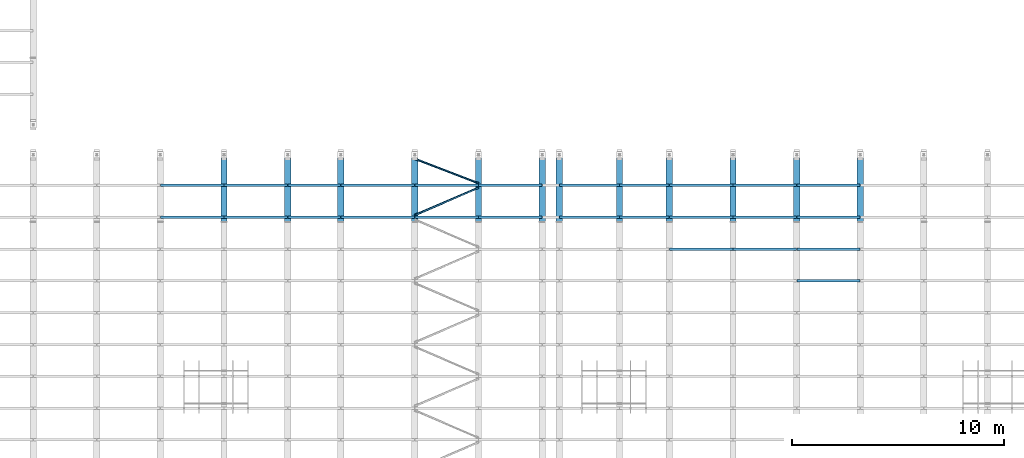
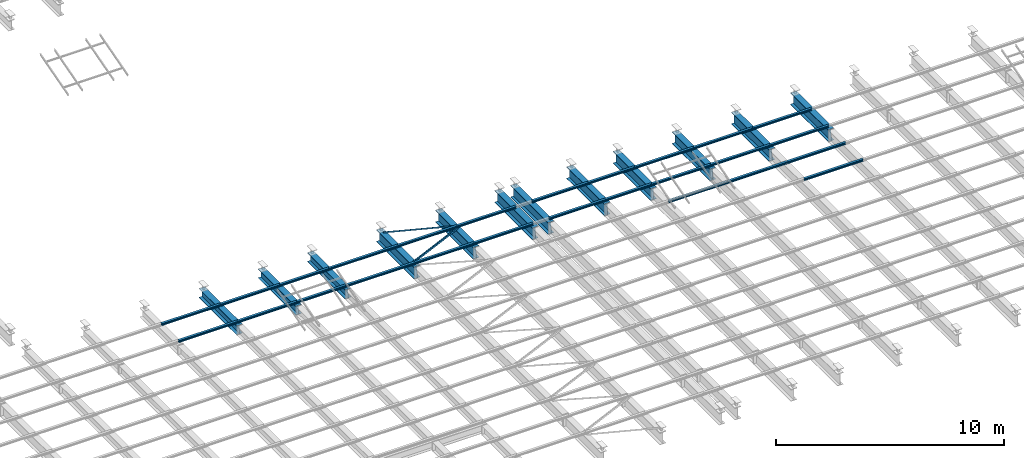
# One storey, part 67 of 139: 40 beams.
"""IFC2X3 building model written with IfcOpenShell, lengths in metres."""

from ifc_helpers import new_model, entity, si_unit, converted_unit, derived_unit, frame, origin, place, context, subcontext, project, spatial, polyline, outline, extrude, material, element, save


model = new_model("IFC2X3")

# Units and contexts
model_context = context("Model", 3, precision=1e-05, world=origin())
body_context = subcontext(model_context, "Body", "Model", "MODEL_VIEW")
ifc_project = project(units=[si_unit("LENGTHUNIT", "METRE"), si_unit("AREAUNIT", "SQUARE_METRE"), si_unit("VOLUMEUNIT", "CUBIC_METRE"), si_unit("MASSUNIT", "GRAM", prefix="KILO"), converted_unit("PLANEANGLEUNIT", "DEGREE", entity("IfcPlaneAngleMeasure", 0.0174532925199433), si_unit("PLANEANGLEUNIT", "RADIAN"), dimensions=[0, 0, 0, 0, 0, 0, 0]), derived_unit("THERMALTRANSMITTANCEUNIT", [(si_unit("POWERUNIT", "WATT"), 1), (si_unit("THERMODYNAMICTEMPERATUREUNIT", "KELVIN"), -1), (si_unit("LENGTHUNIT", "METRE"), -2)]), derived_unit("VOLUMETRICFLOWRATEUNIT", [(si_unit("LENGTHUNIT", "METRE"), 3), (converted_unit("TIMEUNIT", "hour", entity("IfcTimeMeasure", 3600.0), si_unit("TIMEUNIT", "SECOND"), dimensions=[0, 0, 1, 0, 0, 0, 0]), -1), (si_unit("LENGTHUNIT", "METRE"), -1)])], contexts=[model_context])

# Site, building, storey
site_placement = place(None, origin())
site = spatial("IfcSite", under=ifc_project, at=site_placement, Name="TWP_Speiseverteilzentrum SBW VZ II", CompositionType="ELEMENT")
building_placement = place(site_placement, origin())
building = spatial("IfcBuilding", under=site, at=building_placement, Name="Speiseverteilzentrum SBW VZ II", CompositionType="ELEMENT")
storey_placement = place(building_placement, frame((0.0, 0.0, 7.1307)))
storey = spatial("IfcBuildingStorey", under=building, at=storey_placement, Name="Wartung_FFB", CompositionType="ELEMENT", Elevation=7.1307)

# Beams
ifc_material_1 = material(Name="S235")
beam_1_placement = place(storey_placement, frame((76.0500000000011, 30.2500000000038, -0.435), z_axis=(0.0, 0.0, 1.0), x_axis=(-1.0, 0.0, 0.0)))
element("IfcBeam", 1, at=beam_1_placement, inside=storey, material=ifc_material_1, Name="Stahlträger", context=body_context, shape_type="SweptSolid", body=[
    extrude(outline(polyline([(-0.15, 0.245), (-0.15, 0.222), (-0.00599999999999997, 0.222), (-0.006, -0.222), (-0.15, -0.222), (-0.15, -0.245), (0.15, -0.245), (0.15, -0.222), (0.00600000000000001, -0.222), (0.00600000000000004, 0.222), (0.15, 0.222), (0.15, 0.245), (-0.15, 0.245)])), frame((0.0, 0.0, 0.0), z_axis=(0.0, 1.0, 0.0), x_axis=(-1.0, 0.0, 0.0)), (0.0, 0.0, 1.0), 3.29792570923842),
])
ifc_material_2 = material(Name="S235")
beam_2_placement = place(storey_placement, frame((79.0500000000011, 30.2500000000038, -0.435), z_axis=(0.0, 0.0, 1.0), x_axis=(-1.0, 0.0, 0.0)))
element("IfcBeam", 2, at=beam_2_placement, inside=storey, material=ifc_material_2, Name="Stahlträger", context=body_context, shape_type="SweptSolid", body=[
    extrude(outline(polyline([(-0.15, 0.245), (-0.15, 0.222), (-0.00599999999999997, 0.222), (-0.006, -0.222), (-0.15, -0.222), (-0.15, -0.245), (0.15, -0.245), (0.15, -0.222), (0.00600000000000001, -0.222), (0.00600000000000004, 0.222), (0.15, 0.222), (0.15, 0.245), (-0.15, 0.245)])), frame((0.0, 0.0, 0.0), z_axis=(0.0, 1.0, 0.0), x_axis=(-1.0, 0.0, 0.0)), (0.0, 0.0, 1.0), 3.29792570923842),
])
ifc_material_3 = material(Name="S235")
beam_3_placement = place(storey_placement, frame((81.5500000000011, 30.2500000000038, -0.435), z_axis=(0.0, 0.0, 1.0), x_axis=(-1.0, 0.0, 0.0)))
element("IfcBeam", 3, at=beam_3_placement, inside=storey, material=ifc_material_3, Name="Stahlträger", context=body_context, shape_type="SweptSolid", body=[
    extrude(outline(polyline([(-0.15, 0.245), (-0.15, 0.222), (-0.00599999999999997, 0.222), (-0.006, -0.222), (-0.15, -0.222), (-0.15, -0.245), (0.15, -0.245), (0.15, -0.222), (0.00600000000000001, -0.222), (0.00600000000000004, 0.222), (0.15, 0.222), (0.15, 0.245), (-0.15, 0.245)])), frame((0.0, 0.0, 0.0), z_axis=(0.0, 1.0, 0.0), x_axis=(-1.0, 0.0, 0.0)), (0.0, 0.0, 1.0), 3.29792570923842),
])
ifc_material_4 = material(Name="S235")
beam_4_placement = place(storey_placement, frame((88.0500000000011, 30.2500000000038, -0.51), z_axis=(0.0, 0.0, 1.0), x_axis=(-1.0, 0.0, 0.0)))
element("IfcBeam", 4, at=beam_4_placement, inside=storey, material=ifc_material_4, Name="Stahlträger", context=body_context, shape_type="SweptSolid", body=[
    extrude(outline(polyline([(-0.15, 0.32), (-0.15, 0.294), (-0.00675000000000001, 0.294), (-0.00675000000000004, -0.294), (-0.15, -0.294), (-0.15, -0.32), (0.15, -0.32), (0.15, -0.294), (0.00674999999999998, -0.294), (0.00675000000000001, 0.294), (0.15, 0.294), (0.15, 0.32), (-0.15, 0.32)])), frame((0.0, 0.0, 0.0), z_axis=(0.0, 1.0, 0.0), x_axis=(-1.0, 0.0, 0.0)), (0.0, 0.0, 1.0), 3.29792570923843),
])
ifc_material_5 = material(Name="S235")
beam_5_placement = place(storey_placement, frame((103.050000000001, 30.2500000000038, -0.51), z_axis=(0.0, 0.0, 1.0), x_axis=(-1.0, 0.0, 0.0)))
element("IfcBeam", 5, at=beam_5_placement, inside=storey, material=ifc_material_5, Name="Stahlträger", context=body_context, shape_type="SweptSolid", body=[
    extrude(outline(polyline([(-0.15, 0.32), (-0.15, 0.294), (-0.00675000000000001, 0.294), (-0.00675000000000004, -0.294), (-0.15, -0.294), (-0.15, -0.32), (0.15, -0.32), (0.15, -0.294), (0.00674999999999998, -0.294), (0.00675000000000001, 0.294), (0.15, 0.294), (0.15, 0.32), (-0.15, 0.32)])), frame((0.0, 0.0, 0.0), z_axis=(0.0, 1.0, 0.0), x_axis=(-1.0, 0.0, 0.0)), (0.0, 0.0, 1.0), 3.29792570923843),
])
ifc_material_6 = material(Name="S235")
beam_6_placement = place(storey_placement, frame((106.050000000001, 30.2500000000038, -0.51), z_axis=(0.0, 0.0, 1.0), x_axis=(-1.0, 0.0, 0.0)))
element("IfcBeam", 6, at=beam_6_placement, inside=storey, material=ifc_material_6, Name="Stahlträger", context=body_context, shape_type="SweptSolid", body=[
    extrude(outline(polyline([(-0.15, 0.32), (-0.15, 0.294), (-0.00675000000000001, 0.294), (-0.00675000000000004, -0.294), (-0.15, -0.294), (-0.15, -0.32), (0.15, -0.32), (0.15, -0.294), (0.00674999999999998, -0.294), (0.00675000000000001, 0.294), (0.15, 0.294), (0.15, 0.32), (-0.15, 0.32)])), frame((0.0, 0.0, 0.0), z_axis=(0.0, 1.0, 0.0), x_axis=(-1.0, 0.0, 0.0)), (0.0, 0.0, 1.0), 3.29792570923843),
])
ifc_material_7 = material(Name="S235")
beam_7_placement = place(storey_placement, frame((97.0500000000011, 30.2500000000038, -0.51), z_axis=(0.0, 0.0, 1.0), x_axis=(-1.0, 0.0, 0.0)))
element("IfcBeam", 7, at=beam_7_placement, inside=storey, material=ifc_material_7, Name="Stahlträger", context=body_context, shape_type="SweptSolid", body=[
    extrude(outline(polyline([(-0.15, 0.32), (-0.15, 0.294), (-0.00675000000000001, 0.294), (-0.00675000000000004, -0.294), (-0.15, -0.294), (-0.15, -0.32), (0.15, -0.32), (0.15, -0.294), (0.00674999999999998, -0.294), (0.00675000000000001, 0.294), (0.15, 0.294), (0.15, 0.32), (-0.15, 0.32)])), frame((0.0, 0.0, 0.0), z_axis=(0.0, 1.0, 0.0), x_axis=(-1.0, 0.0, 0.0)), (0.0, 0.0, 1.0), 3.29792570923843),
])
ifc_material_8 = material(Name="S235")
beam_8_placement = place(storey_placement, frame((100.050000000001, 30.2500000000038, -0.51), z_axis=(0.0, 0.0, 1.0), x_axis=(-1.0, 0.0, 0.0)))
element("IfcBeam", 8, at=beam_8_placement, inside=storey, material=ifc_material_8, Name="Stahlträger", context=body_context, shape_type="SweptSolid", body=[
    extrude(outline(polyline([(-0.15, 0.32), (-0.15, 0.294), (-0.00675000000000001, 0.294), (-0.00675000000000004, -0.294), (-0.15, -0.294), (-0.15, -0.32), (0.15, -0.32), (0.15, -0.294), (0.00674999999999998, -0.294), (0.00675000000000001, 0.294), (0.15, 0.294), (0.15, 0.32), (-0.15, 0.32)])), frame((0.0, 0.0, 0.0), z_axis=(0.0, 1.0, 0.0), x_axis=(-1.0, 0.0, 0.0)), (0.0, 0.0, 1.0), 3.29792570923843),
])
ifc_material_9 = material(Name="S235")
beam_9_placement = place(storey_placement, frame((94.7000000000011, 30.2500000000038, -0.51), z_axis=(0.0, 0.0, 1.0), x_axis=(-1.0, 0.0, 0.0)))
element("IfcBeam", 9, at=beam_9_placement, inside=storey, material=ifc_material_9, Name="Stahlträger", context=body_context, shape_type="SweptSolid", body=[
    extrude(outline(polyline([(-0.15, 0.32), (-0.15, 0.294), (-0.00675000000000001, 0.294), (-0.00675000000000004, -0.294), (-0.15, -0.294), (-0.15, -0.32), (0.15, -0.32), (0.15, -0.294), (0.00674999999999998, -0.294), (0.00675000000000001, 0.294), (0.15, 0.294), (0.15, 0.32), (-0.15, 0.32)])), frame((0.0, 0.0, 0.0), z_axis=(0.0, 1.0, 0.0), x_axis=(-1.0, 0.0, 0.0)), (0.0, 0.0, 1.0), 3.29792570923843),
])
ifc_material_10 = material(Name="S235")
beam_10_placement = place(storey_placement, frame((91.8500000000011, 30.2500000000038, -0.51), z_axis=(0.0, 0.0, 1.0), x_axis=(-1.0, 0.0, 0.0)))
element("IfcBeam", 10, at=beam_10_placement, inside=storey, material=ifc_material_10, Name="Stahlträger", context=body_context, shape_type="SweptSolid", body=[
    extrude(outline(polyline([(-0.15, 0.32), (-0.15, 0.294), (-0.00675000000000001, 0.294), (-0.00675000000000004, -0.294), (-0.15, -0.294), (-0.15, -0.32), (0.15, -0.32), (0.15, -0.294), (0.00674999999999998, -0.294), (0.00675000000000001, 0.294), (0.15, 0.294), (0.15, 0.32), (-0.15, 0.32)])), frame((0.0, 0.0, 0.0), z_axis=(0.0, 1.0, 0.0), x_axis=(-1.0, 0.0, 0.0)), (0.0, 0.0, 1.0), 3.29792570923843),
])
ifc_material_11 = material(Name="S235")
beam_11_placement = place(storey_placement, frame((91.0500000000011, 30.2500000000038, -0.51), z_axis=(0.0, 0.0, 1.0), x_axis=(-1.0, 0.0, 0.0)))
element("IfcBeam", 11, at=beam_11_placement, inside=storey, material=ifc_material_11, Name="Stahlträger", context=body_context, shape_type="SweptSolid", body=[
    extrude(outline(polyline([(-0.15, 0.32), (-0.15, 0.294), (-0.00675000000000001, 0.294), (-0.00675000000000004, -0.294), (-0.15, -0.294), (-0.15, -0.32), (0.15, -0.32), (0.15, -0.294), (0.00674999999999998, -0.294), (0.00675000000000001, 0.294), (0.15, 0.294), (0.15, 0.32), (-0.15, 0.32)])), frame((0.0, 0.0, 0.0), z_axis=(0.0, 1.0, 0.0), x_axis=(-1.0, 0.0, 0.0)), (0.0, 0.0, 1.0), 3.29792570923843),
])
ifc_material_12 = material(Name="S235")
beam_12_placement = place(storey_placement, frame((85.0500000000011, 30.2500000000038, -0.51), z_axis=(0.0, 0.0, 1.0), x_axis=(-1.0, 0.0, 0.0)))
element("IfcBeam", 12, at=beam_12_placement, inside=storey, material=ifc_material_12, Name="Stahlträger", context=body_context, shape_type="SweptSolid", body=[
    extrude(outline(polyline([(-0.15, 0.32), (-0.15, 0.294), (-0.00675000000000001, 0.294), (-0.00675000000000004, -0.294), (-0.15, -0.294), (-0.15, -0.32), (0.15, -0.32), (0.15, -0.294), (0.00674999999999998, -0.294), (0.00675000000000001, 0.294), (0.15, 0.294), (0.15, 0.32), (-0.15, 0.32)])), frame((0.0, 0.0, 0.0), z_axis=(0.0, 1.0, 0.0), x_axis=(-1.0, 0.0, 0.0)), (0.0, 0.0, 1.0), 3.29792570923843),
])
ifc_material_13 = material(Name="S235")
beam_13_placement = place(storey_placement, frame((73.0600000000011, 28.6450742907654, -0.133), z_axis=(0.0, 0.0, 1.0), x_axis=(0.0, -1.0, 0.0)))
element("IfcBeam", 13, at=beam_13_placement, inside=storey, material=ifc_material_13, Name="Nebenträger", context=body_context, shape_type="SweptSolid", body=[
    extrude(outline(polyline([(-0.06, 0.0570000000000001), (-0.06, 0.0490000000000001), (-0.00249999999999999, 0.0490000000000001), (-0.0025, -0.0489999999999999), (-0.06, -0.0489999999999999), (-0.06, -0.0569999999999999), (0.06, -0.0569999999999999), (0.06, -0.0489999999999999), (0.0025, -0.0489999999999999), (0.00250000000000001, 0.0490000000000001), (0.06, 0.0490000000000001), (0.06, 0.0570000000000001), (-0.06, 0.0570000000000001)])), frame((0.0, 0.0, 0.0), z_axis=(0.0, 1.0, 0.0), x_axis=(-1.0, 0.0, 0.0)), (0.0, 0.0, 1.0), 2.98),
])
ifc_material_14 = material(Name="S235")
beam_14_placement = place(storey_placement, frame((76.0600000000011, 28.6450742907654, -0.133), z_axis=(0.0, 0.0, 1.0), x_axis=(0.0, -1.0, 0.0)))
element("IfcBeam", 14, at=beam_14_placement, inside=storey, material=ifc_material_14, Name="Nebenträger", context=body_context, shape_type="SweptSolid", body=[
    extrude(outline(polyline([(-0.06, 0.0570000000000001), (-0.06, 0.0490000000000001), (-0.00249999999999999, 0.0490000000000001), (-0.0025, -0.0489999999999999), (-0.06, -0.0489999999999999), (-0.06, -0.0569999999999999), (0.06, -0.0569999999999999), (0.06, -0.0489999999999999), (0.0025, -0.0489999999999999), (0.00250000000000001, 0.0490000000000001), (0.06, 0.0490000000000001), (0.06, 0.0570000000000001), (-0.06, 0.0570000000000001)])), frame((0.0, 0.0, 0.0), z_axis=(0.0, 1.0, 0.0), x_axis=(-1.0, 0.0, 0.0)), (0.0, 0.0, 1.0), 2.98),
])
ifc_material_15 = material(Name="S235")
beam_15_placement = place(storey_placement, frame((85.0600000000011, 28.6450742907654, -0.133), z_axis=(0.0, 0.0, 1.0), x_axis=(0.0, -1.0, 0.0)))
element("IfcBeam", 15, at=beam_15_placement, inside=storey, material=ifc_material_15, Name="Nebenträger", context=body_context, shape_type="SweptSolid", body=[
    extrude(outline(polyline([(-0.06, 0.0570000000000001), (-0.06, 0.0490000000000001), (-0.00249999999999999, 0.0490000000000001), (-0.0025, -0.0489999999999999), (-0.06, -0.0489999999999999), (-0.06, -0.0569999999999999), (0.06, -0.0569999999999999), (0.06, -0.0489999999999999), (0.0025, -0.0489999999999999), (0.00250000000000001, 0.0490000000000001), (0.06, 0.0490000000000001), (0.06, 0.0570000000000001), (-0.06, 0.0570000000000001)])), frame((0.0, 0.0, 0.0), z_axis=(0.0, 1.0, 0.0), x_axis=(-1.0, 0.0, 0.0)), (0.0, 0.0, 1.0), 2.98),
])
ifc_material_16 = material(Name="S235")
beam_16_placement = place(storey_placement, frame((88.0600000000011, 28.6450742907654, -0.133), z_axis=(0.0, 0.0, 1.0), x_axis=(0.0, -1.0, 0.0)))
element("IfcBeam", 16, at=beam_16_placement, inside=storey, material=ifc_material_16, Name="Nebenträger", context=body_context, shape_type="SweptSolid", body=[
    extrude(outline(polyline([(-0.06, 0.0570000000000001), (-0.06, 0.0490000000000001), (-0.00249999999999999, 0.0490000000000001), (-0.0025, -0.0489999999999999), (-0.06, -0.0489999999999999), (-0.06, -0.0569999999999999), (0.06, -0.0569999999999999), (0.06, -0.0489999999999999), (0.0025, -0.0489999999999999), (0.00250000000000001, 0.0490000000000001), (0.06, 0.0490000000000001), (0.06, 0.0570000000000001), (-0.06, 0.0570000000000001)])), frame((0.0, 0.0, 0.0), z_axis=(0.0, 1.0, 0.0), x_axis=(-1.0, 0.0, 0.0)), (0.0, 0.0, 1.0), 2.98),
])
ifc_material_17 = material(Name="S235")
beam_17_placement = place(storey_placement, frame((97.0600000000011, 28.6450742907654, -0.133), z_axis=(0.0, 0.0, 1.0), x_axis=(0.0, -1.0, 0.0)))
element("IfcBeam", 17, at=beam_17_placement, inside=storey, material=ifc_material_17, Name="Nebenträger", context=body_context, shape_type="SweptSolid", body=[
    extrude(outline(polyline([(-0.06, 0.0570000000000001), (-0.06, 0.0490000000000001), (-0.00249999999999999, 0.0490000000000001), (-0.0025, -0.0489999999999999), (-0.06, -0.0489999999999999), (-0.06, -0.0569999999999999), (0.06, -0.0569999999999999), (0.06, -0.0489999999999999), (0.0025, -0.0489999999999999), (0.00250000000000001, 0.0490000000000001), (0.06, 0.0490000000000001), (0.06, 0.0570000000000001), (-0.06, 0.0570000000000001)])), frame((0.0, 0.0, 0.0), z_axis=(0.0, 1.0, 0.0), x_axis=(-1.0, 0.0, 0.0)), (0.0, 0.0, 1.0), 2.98),
])
ifc_material_18 = material(Name="S235")
beam_18_placement = place(storey_placement, frame((100.060000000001, 28.6450742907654, -0.133), z_axis=(0.0, 0.0, 1.0), x_axis=(0.0, -1.0, 0.0)))
element("IfcBeam", 18, at=beam_18_placement, inside=storey, material=ifc_material_18, Name="Nebenträger", context=body_context, shape_type="SweptSolid", body=[
    extrude(outline(polyline([(-0.06, 0.0570000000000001), (-0.06, 0.0490000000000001), (-0.00249999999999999, 0.0490000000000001), (-0.0025, -0.0489999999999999), (-0.06, -0.0489999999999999), (-0.06, -0.0569999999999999), (0.06, -0.0569999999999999), (0.06, -0.0489999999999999), (0.0025, -0.0489999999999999), (0.00250000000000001, 0.0490000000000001), (0.06, 0.0490000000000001), (0.06, 0.0570000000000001), (-0.06, 0.0570000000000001)])), frame((0.0, 0.0, 0.0), z_axis=(0.0, 1.0, 0.0), x_axis=(-1.0, 0.0, 0.0)), (0.0, 0.0, 1.0), 2.98),
])
ifc_material_19 = material(Name="S235")
beam_19_placement = place(storey_placement, frame((103.060000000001, 28.6450742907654, -0.133), z_axis=(0.0, 0.0, 1.0), x_axis=(0.0, -1.0, 0.0)))
element("IfcBeam", 19, at=beam_19_placement, inside=storey, material=ifc_material_19, Name="Nebenträger", context=body_context, shape_type="SweptSolid", body=[
    extrude(outline(polyline([(-0.06, 0.0570000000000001), (-0.06, 0.0490000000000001), (-0.00249999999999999, 0.0490000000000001), (-0.0025, -0.0489999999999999), (-0.06, -0.0489999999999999), (-0.06, -0.0569999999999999), (0.06, -0.0569999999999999), (0.06, -0.0489999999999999), (0.0025, -0.0489999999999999), (0.00250000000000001, 0.0490000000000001), (0.06, 0.0490000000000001), (0.06, 0.0570000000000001), (-0.06, 0.0570000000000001)])), frame((0.0, 0.0, 0.0), z_axis=(0.0, 1.0, 0.0), x_axis=(-1.0, 0.0, 0.0)), (0.0, 0.0, 1.0), 2.98),
])
ifc_material_20 = material(Name="S235")
beam_20_placement = place(storey_placement, frame((73.0600000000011, 27.1450742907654, -0.133), z_axis=(0.0, 0.0, 1.0), x_axis=(0.0, -1.0, 0.0)))
element("IfcBeam", 20, at=beam_20_placement, inside=storey, material=ifc_material_20, Name="Nebenträger", context=body_context, shape_type="SweptSolid", body=[
    extrude(outline(polyline([(-0.06, 0.0570000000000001), (-0.06, 0.0490000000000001), (-0.00249999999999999, 0.0490000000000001), (-0.0025, -0.0489999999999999), (-0.06, -0.0489999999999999), (-0.06, -0.0569999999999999), (0.06, -0.0569999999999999), (0.06, -0.0489999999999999), (0.0025, -0.0489999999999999), (0.00250000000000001, 0.0490000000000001), (0.06, 0.0490000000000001), (0.06, 0.0570000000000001), (-0.06, 0.0570000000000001)])), frame((0.0, 0.0, 0.0), z_axis=(0.0, 1.0, 0.0), x_axis=(-1.0, 0.0, 0.0)), (0.0, 0.0, 1.0), 2.98),
])
ifc_material_21 = material(Name="S235")
beam_21_placement = place(storey_placement, frame((76.0600000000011, 27.1450742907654, -0.133), z_axis=(0.0, 0.0, 1.0), x_axis=(0.0, -1.0, 0.0)))
element("IfcBeam", 21, at=beam_21_placement, inside=storey, material=ifc_material_21, Name="Nebenträger", context=body_context, shape_type="SweptSolid", body=[
    extrude(outline(polyline([(-0.06, 0.0570000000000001), (-0.06, 0.0490000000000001), (-0.00249999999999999, 0.0490000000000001), (-0.0025, -0.0489999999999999), (-0.06, -0.0489999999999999), (-0.06, -0.0569999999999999), (0.06, -0.0569999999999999), (0.06, -0.0489999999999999), (0.0025, -0.0489999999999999), (0.00250000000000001, 0.0490000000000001), (0.06, 0.0490000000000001), (0.06, 0.0570000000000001), (-0.06, 0.0570000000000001)])), frame((0.0, 0.0, 0.0), z_axis=(0.0, 1.0, 0.0), x_axis=(-1.0, 0.0, 0.0)), (0.0, 0.0, 1.0), 2.98),
])
ifc_material_22 = material(Name="S235")
beam_22_placement = place(storey_placement, frame((85.0600000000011, 27.1450742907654, -0.133), z_axis=(0.0, 0.0, 1.0), x_axis=(0.0, -1.0, 0.0)))
element("IfcBeam", 22, at=beam_22_placement, inside=storey, material=ifc_material_22, Name="Nebenträger", context=body_context, shape_type="SweptSolid", body=[
    extrude(outline(polyline([(-0.06, 0.0570000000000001), (-0.06, 0.0490000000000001), (-0.00249999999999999, 0.0490000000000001), (-0.0025, -0.0489999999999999), (-0.06, -0.0489999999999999), (-0.06, -0.0569999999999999), (0.06, -0.0569999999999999), (0.06, -0.0489999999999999), (0.0025, -0.0489999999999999), (0.00250000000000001, 0.0490000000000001), (0.06, 0.0490000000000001), (0.06, 0.0570000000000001), (-0.06, 0.0570000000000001)])), frame((0.0, 0.0, 0.0), z_axis=(0.0, 1.0, 0.0), x_axis=(-1.0, 0.0, 0.0)), (0.0, 0.0, 1.0), 2.98),
])
ifc_material_23 = material(Name="S235")
beam_23_placement = place(storey_placement, frame((88.0600000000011, 27.1450742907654, -0.133), z_axis=(0.0, 0.0, 1.0), x_axis=(0.0, -1.0, 0.0)))
element("IfcBeam", 23, at=beam_23_placement, inside=storey, material=ifc_material_23, Name="Nebenträger", context=body_context, shape_type="SweptSolid", body=[
    extrude(outline(polyline([(-0.06, 0.0570000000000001), (-0.06, 0.0490000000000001), (-0.00249999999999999, 0.0490000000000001), (-0.0025, -0.0489999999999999), (-0.06, -0.0489999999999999), (-0.06, -0.0569999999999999), (0.06, -0.0569999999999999), (0.06, -0.0489999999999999), (0.0025, -0.0489999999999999), (0.00250000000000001, 0.0490000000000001), (0.06, 0.0490000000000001), (0.06, 0.0570000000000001), (-0.06, 0.0570000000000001)])), frame((0.0, 0.0, 0.0), z_axis=(0.0, 1.0, 0.0), x_axis=(-1.0, 0.0, 0.0)), (0.0, 0.0, 1.0), 2.98),
])
ifc_material_24 = material(Name="S235")
beam_24_placement = place(storey_placement, frame((97.0600000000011, 27.1450742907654, -0.133), z_axis=(0.0, 0.0, 1.0), x_axis=(0.0, -1.0, 0.0)))
element("IfcBeam", 24, at=beam_24_placement, inside=storey, material=ifc_material_24, Name="Nebenträger", context=body_context, shape_type="SweptSolid", body=[
    extrude(outline(polyline([(-0.06, 0.0570000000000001), (-0.06, 0.0490000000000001), (-0.00249999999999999, 0.0490000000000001), (-0.0025, -0.0489999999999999), (-0.06, -0.0489999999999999), (-0.06, -0.0569999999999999), (0.06, -0.0569999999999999), (0.06, -0.0489999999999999), (0.0025, -0.0489999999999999), (0.00250000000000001, 0.0490000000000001), (0.06, 0.0490000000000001), (0.06, 0.0570000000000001), (-0.06, 0.0570000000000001)])), frame((0.0, 0.0, 0.0), z_axis=(0.0, 1.0, 0.0), x_axis=(-1.0, 0.0, 0.0)), (0.0, 0.0, 1.0), 2.98),
])
ifc_material_25 = material(Name="S235")
beam_25_placement = place(storey_placement, frame((100.060000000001, 27.1450742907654, -0.133), z_axis=(0.0, 0.0, 1.0), x_axis=(0.0, -1.0, 0.0)))
element("IfcBeam", 25, at=beam_25_placement, inside=storey, material=ifc_material_25, Name="Nebenträger", context=body_context, shape_type="SweptSolid", body=[
    extrude(outline(polyline([(-0.06, 0.0570000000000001), (-0.06, 0.0490000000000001), (-0.00249999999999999, 0.0490000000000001), (-0.0025, -0.0489999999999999), (-0.06, -0.0489999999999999), (-0.06, -0.0569999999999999), (0.06, -0.0569999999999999), (0.06, -0.0489999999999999), (0.0025, -0.0489999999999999), (0.00250000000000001, 0.0490000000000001), (0.06, 0.0490000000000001), (0.06, 0.0570000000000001), (-0.06, 0.0570000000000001)])), frame((0.0, 0.0, 0.0), z_axis=(0.0, 1.0, 0.0), x_axis=(-1.0, 0.0, 0.0)), (0.0, 0.0, 1.0), 2.98),
])
ifc_material_26 = material(Name="S235")
beam_26_placement = place(storey_placement, frame((103.060000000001, 27.1450742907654, -0.133), z_axis=(0.0, 0.0, 1.0), x_axis=(0.0, -1.0, 0.0)))
element("IfcBeam", 26, at=beam_26_placement, inside=storey, material=ifc_material_26, Name="Nebenträger", context=body_context, shape_type="SweptSolid", body=[
    extrude(outline(polyline([(-0.06, 0.0570000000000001), (-0.06, 0.0490000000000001), (-0.00249999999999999, 0.0490000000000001), (-0.0025, -0.0489999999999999), (-0.06, -0.0489999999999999), (-0.06, -0.0569999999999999), (0.06, -0.0569999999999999), (0.06, -0.0489999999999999), (0.0025, -0.0489999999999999), (0.00250000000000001, 0.0490000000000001), (0.06, 0.0490000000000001), (0.06, 0.0570000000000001), (-0.06, 0.0570000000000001)])), frame((0.0, 0.0, 0.0), z_axis=(0.0, 1.0, 0.0), x_axis=(-1.0, 0.0, 0.0)), (0.0, 0.0, 1.0), 2.98),
])
ifc_material_27 = material(Name="S235")
beam_27_placement = place(storey_placement, frame((97.0600000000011, 25.6450742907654, -0.133), z_axis=(0.0, 0.0, 1.0), x_axis=(0.0, -1.0, 0.0)))
element("IfcBeam", 27, at=beam_27_placement, inside=storey, material=ifc_material_27, Name="Nebenträger", context=body_context, shape_type="SweptSolid", body=[
    extrude(outline(polyline([(-0.06, 0.0570000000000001), (-0.06, 0.0490000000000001), (-0.00249999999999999, 0.0490000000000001), (-0.0025, -0.0489999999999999), (-0.06, -0.0489999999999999), (-0.06, -0.0569999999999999), (0.06, -0.0569999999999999), (0.06, -0.0489999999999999), (0.0025, -0.0489999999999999), (0.00250000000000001, 0.0490000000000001), (0.06, 0.0490000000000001), (0.06, 0.0570000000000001), (-0.06, 0.0570000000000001)])), frame((0.0, 0.0, 0.0), z_axis=(0.0, 1.0, 0.0), x_axis=(-1.0, 0.0, 0.0)), (0.0, 0.0, 1.0), 2.98),
])
ifc_material_28 = material(Name="S235")
beam_28_placement = place(storey_placement, frame((100.060000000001, 25.6450742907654, -0.133), z_axis=(0.0, 0.0, 1.0), x_axis=(0.0, -1.0, 0.0)))
element("IfcBeam", 28, at=beam_28_placement, inside=storey, material=ifc_material_28, Name="Nebenträger", context=body_context, shape_type="SweptSolid", body=[
    extrude(outline(polyline([(-0.06, 0.0570000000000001), (-0.06, 0.0490000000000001), (-0.00249999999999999, 0.0490000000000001), (-0.0025, -0.0489999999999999), (-0.06, -0.0489999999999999), (-0.06, -0.0569999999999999), (0.06, -0.0569999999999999), (0.06, -0.0489999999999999), (0.0025, -0.0489999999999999), (0.00250000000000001, 0.0490000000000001), (0.06, 0.0490000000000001), (0.06, 0.0570000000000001), (-0.06, 0.0570000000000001)])), frame((0.0, 0.0, 0.0), z_axis=(0.0, 1.0, 0.0), x_axis=(-1.0, 0.0, 0.0)), (0.0, 0.0, 1.0), 2.98),
])
ifc_material_29 = material(Name="S235")
beam_29_placement = place(storey_placement, frame((103.060000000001, 25.6450742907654, -0.133), z_axis=(0.0, 0.0, 1.0), x_axis=(0.0, -1.0, 0.0)))
element("IfcBeam", 29, at=beam_29_placement, inside=storey, material=ifc_material_29, Name="Nebenträger", context=body_context, shape_type="SweptSolid", body=[
    extrude(outline(polyline([(-0.06, 0.0570000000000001), (-0.06, 0.0490000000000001), (-0.00249999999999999, 0.0490000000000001), (-0.0025, -0.0489999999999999), (-0.06, -0.0489999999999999), (-0.06, -0.0569999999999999), (0.06, -0.0569999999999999), (0.06, -0.0489999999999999), (0.0025, -0.0489999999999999), (0.00250000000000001, 0.0490000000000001), (0.06, 0.0490000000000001), (0.06, 0.0570000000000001), (-0.06, 0.0570000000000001)])), frame((0.0, 0.0, 0.0), z_axis=(0.0, 1.0, 0.0), x_axis=(-1.0, 0.0, 0.0)), (0.0, 0.0, 1.0), 2.98),
])
ifc_material_30 = material(Name="S235")
beam_30_placement = place(storey_placement, frame((103.060000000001, 24.1450742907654, -0.133), z_axis=(0.0, 0.0, 1.0), x_axis=(0.0, -1.0, 0.0)))
element("IfcBeam", 30, at=beam_30_placement, inside=storey, material=ifc_material_30, Name="Nebenträger", context=body_context, shape_type="SweptSolid", body=[
    extrude(outline(polyline([(-0.06, 0.0570000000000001), (-0.06, 0.0490000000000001), (-0.00249999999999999, 0.0490000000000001), (-0.0025, -0.0489999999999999), (-0.06, -0.0489999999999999), (-0.06, -0.0569999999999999), (0.06, -0.0569999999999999), (0.06, -0.0489999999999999), (0.0025, -0.0489999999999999), (0.00250000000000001, 0.0490000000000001), (0.06, 0.0490000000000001), (0.06, 0.0570000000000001), (-0.06, 0.0570000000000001)])), frame((0.0, 0.0, 0.0), z_axis=(0.0, 1.0, 0.0), x_axis=(-1.0, 0.0, 0.0)), (0.0, 0.0, 1.0), 2.98),
])
ifc_material_31 = material(Name="S235")
beam_31_placement = place(storey_placement, frame((79.0600000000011, 28.6450742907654, -0.133), z_axis=(0.0, 0.0, 1.0), x_axis=(0.0, -1.0, 0.0)))
element("IfcBeam", 31, at=beam_31_placement, inside=storey, material=ifc_material_31, Name="Nebenträger", context=body_context, shape_type="SweptSolid", body=[
    extrude(outline(polyline([(-0.06, 0.0570000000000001), (-0.06, 0.0490000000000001), (-0.00249999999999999, 0.0490000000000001), (-0.0025, -0.0489999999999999), (-0.06, -0.0489999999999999), (-0.06, -0.0569999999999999), (0.06, -0.0569999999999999), (0.06, -0.0489999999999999), (0.0025, -0.0489999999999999), (0.00250000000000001, 0.0490000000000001), (0.06, 0.0490000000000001), (0.06, 0.0570000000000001), (-0.06, 0.0570000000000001)])), frame((0.0, 0.0, 0.0), z_axis=(0.0, 1.0, 0.0), x_axis=(-1.0, 0.0, 0.0)), (0.0, 0.0, 1.0), 2.48),
])
ifc_material_32 = material(Name="S235")
beam_32_placement = place(storey_placement, frame((81.5600000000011, 28.6450742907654, -0.133), z_axis=(0.0, 0.0, 1.0), x_axis=(0.0, -1.0, 0.0)))
element("IfcBeam", 32, at=beam_32_placement, inside=storey, material=ifc_material_32, Name="Nebenträger", context=body_context, shape_type="SweptSolid", body=[
    extrude(outline(polyline([(-0.06, 0.0570000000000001), (-0.06, 0.0490000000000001), (-0.00249999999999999, 0.0490000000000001), (-0.0025, -0.0489999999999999), (-0.06, -0.0489999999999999), (-0.06, -0.0569999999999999), (0.06, -0.0569999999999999), (0.06, -0.0489999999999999), (0.0025, -0.0489999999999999), (0.00250000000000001, 0.0490000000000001), (0.06, 0.0490000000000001), (0.06, 0.0570000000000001), (-0.06, 0.0570000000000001)])), frame((0.0, 0.0, 0.0), z_axis=(0.0, 1.0, 0.0), x_axis=(-1.0, 0.0, 0.0)), (0.0, 0.0, 1.0), 3.48),
])
ifc_material_33 = material(Name="S235")
beam_33_placement = place(storey_placement, frame((79.0600000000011, 27.1450742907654, -0.133), z_axis=(0.0, 0.0, 1.0), x_axis=(0.0, -1.0, 0.0)))
element("IfcBeam", 33, at=beam_33_placement, inside=storey, material=ifc_material_33, Name="Nebenträger", context=body_context, shape_type="SweptSolid", body=[
    extrude(outline(polyline([(-0.06, 0.0570000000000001), (-0.06, 0.0490000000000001), (-0.00249999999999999, 0.0490000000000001), (-0.0025, -0.0489999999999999), (-0.06, -0.0489999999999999), (-0.06, -0.0569999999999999), (0.06, -0.0569999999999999), (0.06, -0.0489999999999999), (0.0025, -0.0489999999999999), (0.00250000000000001, 0.0490000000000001), (0.06, 0.0490000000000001), (0.06, 0.0570000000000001), (-0.06, 0.0570000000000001)])), frame((0.0, 0.0, 0.0), z_axis=(0.0, 1.0, 0.0), x_axis=(-1.0, 0.0, 0.0)), (0.0, 0.0, 1.0), 2.48),
])
ifc_material_34 = material(Name="S235")
beam_34_placement = place(storey_placement, frame((81.5600000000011, 27.1450742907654, -0.133), z_axis=(0.0, 0.0, 1.0), x_axis=(0.0, -1.0, 0.0)))
element("IfcBeam", 34, at=beam_34_placement, inside=storey, material=ifc_material_34, Name="Nebenträger", context=body_context, shape_type="SweptSolid", body=[
    extrude(outline(polyline([(-0.06, 0.0570000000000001), (-0.06, 0.0490000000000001), (-0.00249999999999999, 0.0490000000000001), (-0.0025, -0.0489999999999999), (-0.06, -0.0489999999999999), (-0.06, -0.0569999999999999), (0.06, -0.0569999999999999), (0.06, -0.0489999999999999), (0.0025, -0.0489999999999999), (0.00250000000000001, 0.0490000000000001), (0.06, 0.0490000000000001), (0.06, 0.0570000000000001), (-0.06, 0.0570000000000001)])), frame((0.0, 0.0, 0.0), z_axis=(0.0, 1.0, 0.0), x_axis=(-1.0, 0.0, 0.0)), (0.0, 0.0, 1.0), 3.48),
])
ifc_material_35 = material(Name="S235")
beam_35_placement = place(storey_placement, frame((94.7100000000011, 28.6450742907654, -0.133), z_axis=(0.0, 0.0, 1.0), x_axis=(0.0, -1.0, 0.0)))
element("IfcBeam", 35, at=beam_35_placement, inside=storey, material=ifc_material_35, Name="Nebenträger", context=body_context, shape_type="SweptSolid", body=[
    extrude(outline(polyline([(-0.06, 0.0570000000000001), (-0.06, 0.0490000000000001), (-0.00249999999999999, 0.0490000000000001), (-0.0025, -0.0489999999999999), (-0.06, -0.0489999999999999), (-0.06, -0.0569999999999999), (0.06, -0.0569999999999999), (0.06, -0.0489999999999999), (0.0025, -0.0489999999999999), (0.00250000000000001, 0.0490000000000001), (0.06, 0.0490000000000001), (0.06, 0.0570000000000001), (-0.06, 0.0570000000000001)])), frame((0.0, 0.0, 0.0), z_axis=(0.0, 1.0, 0.0), x_axis=(-1.0, 0.0, 0.0)), (0.0, 0.0, 1.0), 2.33),
])
ifc_material_36 = material(Name="S235")
beam_36_placement = place(storey_placement, frame((94.7100000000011, 27.1450742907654, -0.133), z_axis=(0.0, 0.0, 1.0), x_axis=(0.0, -1.0, 0.0)))
element("IfcBeam", 36, at=beam_36_placement, inside=storey, material=ifc_material_36, Name="Nebenträger", context=body_context, shape_type="SweptSolid", body=[
    extrude(outline(polyline([(-0.06, 0.0570000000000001), (-0.06, 0.0490000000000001), (-0.00249999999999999, 0.0490000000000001), (-0.0025, -0.0489999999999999), (-0.06, -0.0489999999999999), (-0.06, -0.0569999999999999), (0.06, -0.0569999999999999), (0.06, -0.0489999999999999), (0.0025, -0.0489999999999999), (0.00250000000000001, 0.0490000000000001), (0.06, 0.0490000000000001), (0.06, 0.0570000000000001), (-0.06, 0.0570000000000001)])), frame((0.0, 0.0, 0.0), z_axis=(0.0, 1.0, 0.0), x_axis=(-1.0, 0.0, 0.0)), (0.0, 0.0, 1.0), 2.33),
])
ifc_material_37 = material(Name="S235")
beam_37_placement = place(storey_placement, frame((91.8600000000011, 28.6450742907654, -0.133), z_axis=(0.0, 0.0, 1.0), x_axis=(0.0, -1.0, 0.0)))
element("IfcBeam", 37, at=beam_37_placement, inside=storey, material=ifc_material_37, Name="Nebenträger", context=body_context, shape_type="SweptSolid", body=[
    extrude(outline(polyline([(-0.06, 0.0570000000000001), (-0.06, 0.0490000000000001), (-0.00249999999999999, 0.0490000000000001), (-0.0025, -0.0489999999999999), (-0.06, -0.0489999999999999), (-0.06, -0.0569999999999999), (0.06, -0.0569999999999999), (0.06, -0.0489999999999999), (0.0025, -0.0489999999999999), (0.00250000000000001, 0.0490000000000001), (0.06, 0.0490000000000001), (0.06, 0.0570000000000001), (-0.06, 0.0570000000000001)])), frame((0.0, 0.0, 0.0), z_axis=(0.0, 1.0, 0.0), x_axis=(-1.0, 0.0, 0.0)), (0.0, 0.0, 1.0), 2.83325),
])
ifc_material_38 = material(Name="S235")
beam_38_placement = place(storey_placement, frame((91.8600000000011, 27.1450742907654, -0.133), z_axis=(0.0, 0.0, 1.0), x_axis=(0.0, -1.0, 0.0)))
element("IfcBeam", 38, at=beam_38_placement, inside=storey, material=ifc_material_38, Name="Nebenträger", context=body_context, shape_type="SweptSolid", body=[
    extrude(outline(polyline([(-0.06, 0.0570000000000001), (-0.06, 0.0490000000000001), (-0.00249999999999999, 0.0490000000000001), (-0.0025, -0.0489999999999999), (-0.06, -0.0489999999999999), (-0.06, -0.0569999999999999), (0.06, -0.0569999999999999), (0.06, -0.0489999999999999), (0.0025, -0.0489999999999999), (0.00250000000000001, 0.0490000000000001), (0.06, 0.0490000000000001), (0.06, 0.0570000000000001), (-0.06, 0.0570000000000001)])), frame((0.0, 0.0, 0.0), z_axis=(0.0, 1.0, 0.0), x_axis=(-1.0, 0.0, 0.0)), (0.0, 0.0, 1.0), 2.83325),
])
ifc_material_39 = material(Name="S235")
beam_39_placement = place(storey_placement, frame((85.0406913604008, 27.2634673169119, -0.167052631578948), z_axis=(0.0, 0.0, 1.0), x_axis=(0.395932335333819, -0.91827968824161, 0.0)))
element("IfcBeam", 39, at=beam_39_placement, inside=storey, material=ifc_material_39, Name="Kreuzverband", context=body_context, shape_type="SweptSolid", body=[
    extrude(outline(polyline([(0.0229473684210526, -0.0229473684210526), (0.0229473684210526, 0.0570526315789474), (0.0149473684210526, 0.0570526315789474), (0.0149473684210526, -0.0149473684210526), (-0.0570526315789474, -0.0149473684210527), (-0.0570526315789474, -0.0229473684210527), (0.0229473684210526, -0.0229473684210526)])), frame((0.0, 0.0, 0.0), z_axis=(0.0, 0.999999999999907, 0.0), x_axis=(-1.0, 0.0, 0.0)), (0.0, 0.0, 1.0), 3.27000000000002),
])
ifc_material_40 = material(Name="S235")
beam_40_placement = place(storey_placement, frame((85.0362134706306, 29.8922581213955, -0.167052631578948), z_axis=(0.0, 0.0, 1.0), x_axis=(-0.359957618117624, -0.932968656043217, 0.0)))
element("IfcBeam", 40, at=beam_40_placement, inside=storey, material=ifc_material_40, Name="Kreuzverband", context=body_context, shape_type="SweptSolid", body=[
    extrude(outline(polyline([(0.0570526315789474, -0.0229473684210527), (0.0570526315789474, -0.0149473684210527), (-0.0149473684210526, -0.0149473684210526), (-0.0149473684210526, 0.0570526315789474), (-0.0229473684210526, 0.0570526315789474), (-0.0229473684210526, -0.0229473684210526), (0.0570526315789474, -0.0229473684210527)])), frame((0.0, 0.0, 0.0), z_axis=(0.0, 1.00000000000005, 0.0), x_axis=(-1.0, 0.0, 0.0)), (0.0, 0.0, 1.0), 3.22243081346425),
])

save(model, "model.ifc")
